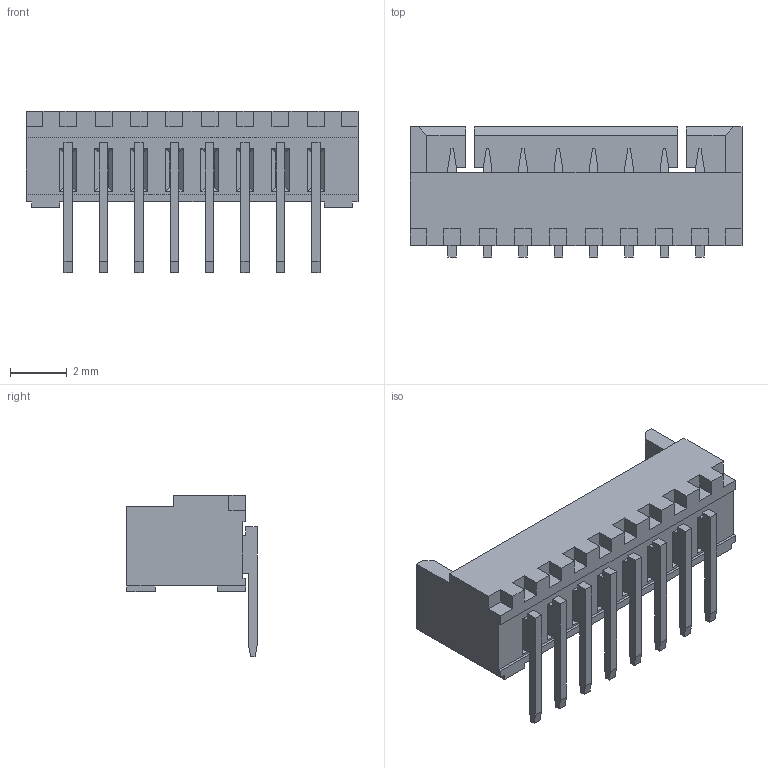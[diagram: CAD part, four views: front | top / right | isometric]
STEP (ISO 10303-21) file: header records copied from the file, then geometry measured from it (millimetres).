
FILE_DESCRIPTION((''),'2;1');
FILE_NAME('8-001','2010-02-09T',('snow'),(''),'PRO/ENGINEER BY PARAMETRIC TECHNOLOGY CORPORATION, 2007450','PRO/ENGINEER BY PARAMETRIC TECHNOLOGY CORPORATION, 2007450','');
FILE_SCHEMA(('CONFIG_CONTROL_DESIGN'));
Length unit declared in the file: millimetre
Products named in the file (1): 8-001
Bounding box: 11.73 x 4.6 x 5.7 mm (x, y, z)
Volume: 73.9 mm3; surface area: 376.1 mm2
Topology: 1 solids, 1 shells, 391 faces, 1207 edges, 786 vertices
Faces by surface type: plane 375, cylinder 16
Entity records: 13291 total; most frequent: ORIENTED_EDGE 2414, CARTESIAN_POINT 2384, DIRECTION 2021, EDGE_CURVE 1207, VECTOR 1175, LINE 1175, VERTEX_POINT 786, AXIS2_PLACEMENT_3D 423
